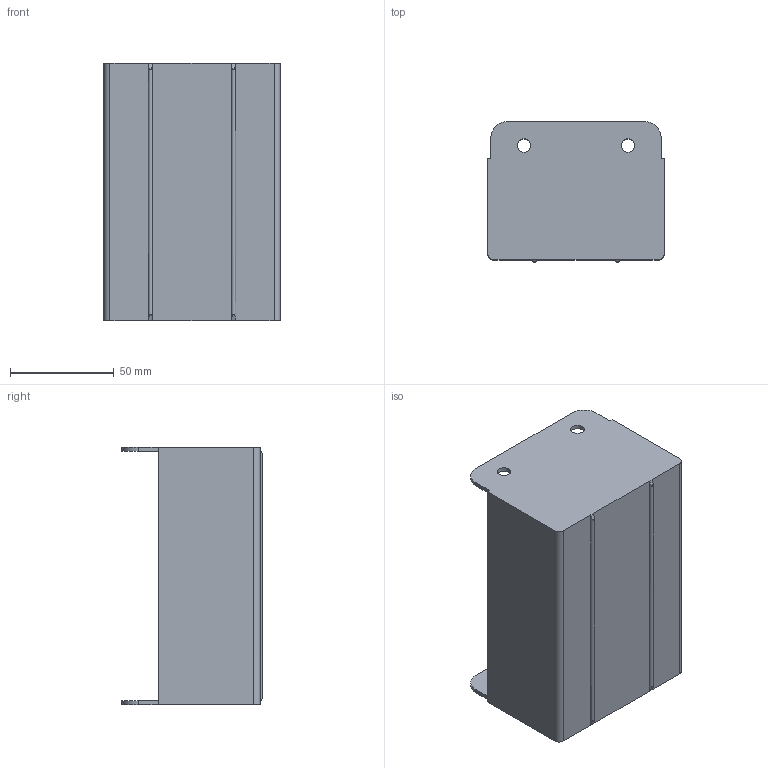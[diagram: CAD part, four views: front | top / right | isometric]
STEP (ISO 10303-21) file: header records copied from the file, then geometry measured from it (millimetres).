
FILE_DESCRIPTION(/* description */ (''),/* implementation_level */ '2;1');
FILE_NAME(/* name */ 'MGSS-FS-200.step',/* time_stamp */ '2023-06-01T14:48:59+09:00',/* author */ (''),/* organization */ (''),/* preprocessor_version */ 'ST-DEVELOPER v19.2',/* originating_system */ 'Autodesk Translation Framework v12.4.0.73',/* authorisation */ '');
FILE_SCHEMA (('AUTOMOTIVE_DESIGN { 1 0 10303 214 3 1 1 }'));
Length unit declared in the file: millimetre
Products named in the file (1): FS-200
Bounding box: 85 x 67.5 x 124 mm (x, y, z)
Volume: 72389.5 mm3; surface area: 90775.6 mm2
Topology: 2 solids, 2 shells, 52 faces, 132 edges, 84 vertices
Faces by surface type: plane 34, cylinder 18
Full cylindrical faces by diameter (mm): 6.5 x4
Entity records: 1611 total; most frequent: DIRECTION 274, CARTESIAN_POINT 269, ORIENTED_EDGE 264, EDGE_CURVE 132, LINE 96, VECTOR 96, AXIS2_PLACEMENT_3D 89, VERTEX_POINT 84
